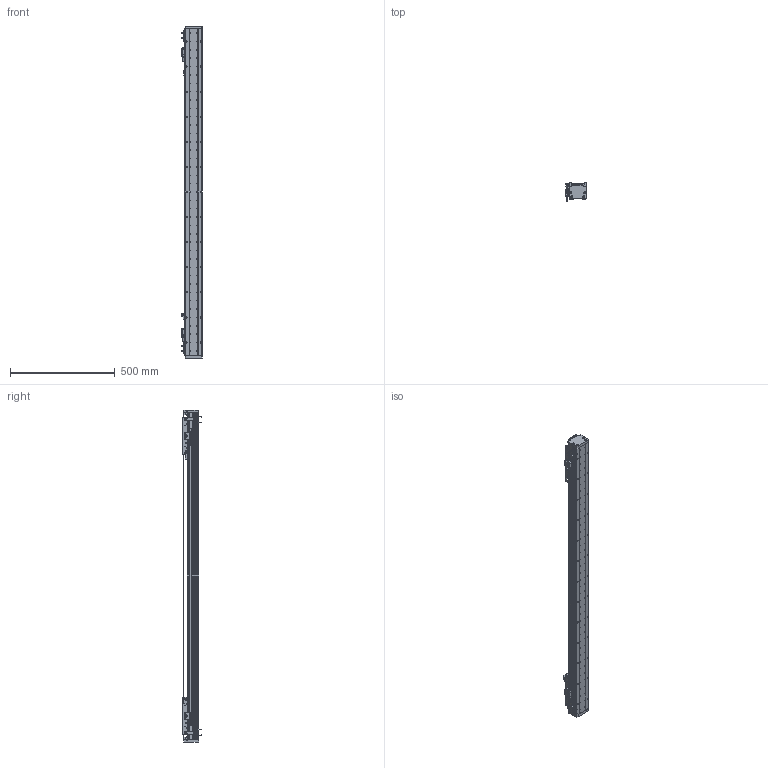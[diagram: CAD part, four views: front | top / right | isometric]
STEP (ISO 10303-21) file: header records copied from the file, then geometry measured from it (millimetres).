
FILE_DESCRIPTION (( 'STEP AP203' ), '1' );
FILE_NAME ('DA-A82-2-B2-T1140-C010-0.2 眻盄萇儂.STEP', '2025-08-13T02:33:49', ( '' ), ( '' ), 'SwSTEP 2.0', 'SolidWorks 2019', '' );
FILE_SCHEMA (( 'CONFIG_CONTROL_DESIGN' ));
Length unit declared in the file: millimetre
Products named in the file (29): AU82-M-00 珨极趙賑雄怢啣; 复件 复件 复件 DA82 钢带盖板^DA-A82-B2-T-C010-0.2-N 直线电机(默认); 复件 DA82-GYP-ZJ-00 中间光电感应片^DA-A82-B2-T-C010-0.2-N 直线电机; DA-A82-2-B2-T1140-C010-0.2 眻盄萇儂; 复件 复件 17517-0000-004-00  钢带压块^DA-A82-B2-T-C010-0.2-N 直线电机(默认); IU-AU82-L 菁釱絳寢; AU82-M-00 珨极趙賑雄怢啣-1; 葩璃 PM-L25^DA-A82-B2-T-C010-0.2-N 眻盄萇儂; 复件 DKW-GJ-XJ-00 防撞橡胶^DA-A82-B2-T-C010-0.2-N 直线电机; 复件 DA82-GDZ-ZJ-00 中间光电固定座^DA-A82-B2-T-C010-0.2-N 直线电机; AU82-M 幗紩賑怢-1; AU82-M 幗紩賑怢; 葩璃 PM-T45^DA-A82-B2-T-C010-0.2-N 眻盄萇儂; 复件 DA95-B2-GT-00 滑块钢轨^AU82-M-00 一体化滑动台板; 复件 复件 17517-0000-002-00 端板^DA-A82-B2-T-C010-0.2-N 直线电机; 复件 BKM02-W040-C1-TP-DA-3.0 直线电机动子^DA-A82-B2-T-C010-0.2-N 直线电机; 复件 纯铜油杯 6x6mm^AU82-M 滚珠滑台; 复件 DA60-DMT-DTJ-00 读数头支架^DA-A82-B2-T-C010-0.2-N 直线电机; 葩璃 DA82-B2-DP-00 結え^AU82-M 幗紩賑怢; 葩璃 BKM01-W040-TRL^DA-A82-B2-T-C010-0.2-N 眻盄萇儂; 复件 复件 17517-0000-003-00 钢带拉块^DA-A82-B2-T-C010-0.2-N 直线电机; 复件 XD-U-02  磁栅尺^DA-A82-B2-T-C010-0.2-N 直线电机; 复件 复件 DA82-XJ-00 缓冲橡胶^DA-A82-B2-T-C010-0.2-N 直线电机; 复件 DA95-GT-T-00 底座钢轨^IU-AU82-L 底座导轨; DA-A60-GYP-DMT-00 光电感应片^DA-A82-B2-T-C010-0.2-N 直线电机(默认); IU-AU82-L-00 菁釱(L1560); 葩璃 DMT-010 1米m 0.2M^DA-A82-B2-T-C010-0.2-N 眻盄萇儂; AU82-HT-M-00 賑雄怢啣; 复件 六角薄螺母 M3^DA-A82-B2-T-C010-0.2-N 直线电机
Assembly tree (61 placements, depth 4):
  DA-A82-2-B2-T1140-C010-0.2 眻盄萇儂
    IU-AU82-L 菁釱絳寢
      IU-AU82-L-00 菁釱(L1560)
      复件 DA95-GT-T-00 底座钢轨^IU-AU82-L 底座导轨  x2
    AU82-M 幗紩賑怢
      AU82-M-00 珨极趙賑雄怢啣
        AU82-HT-M-00 賑雄怢啣
        复件 DA95-B2-GT-00 滑块钢轨^AU82-M-00 一体化滑动台板  x4
      葩璃 DA82-B2-DP-00 結え^AU82-M 幗紩賑怢  x2
      复件 纯铜油杯 6x6mm^AU82-M 滚珠滑台  x2
    AU82-M 幗紩賑怢-1
      AU82-M-00 珨极趙賑雄怢啣-1
        AU82-HT-M-00 賑雄怢啣
        复件 DA95-B2-GT-00 滑块钢轨^AU82-M-00 一体化滑动台板  x4
      葩璃 DA82-B2-DP-00 結え^AU82-M 幗紩賑怢  x2
      复件 纯铜油杯 6x6mm^AU82-M 滚珠滑台  x2
    复件 BKM02-W040-C1-TP-DA-3.0 直线电机动子^DA-A82-B2-T-C010-0.2-N 直线电机  x2
    复件 DA60-DMT-DTJ-00 读数头支架^DA-A82-B2-T-C010-0.2-N 直线电机  x2
    葩璃 DMT-010 1米m 0.2M^DA-A82-B2-T-C010-0.2-N 眻盄萇儂  x2
    DA-A60-GYP-DMT-00 光电感应片^DA-A82-B2-T-C010-0.2-N 直线电机(默认)  x2
    复件 DA82-GDZ-ZJ-00 中间光电固定座^DA-A82-B2-T-C010-0.2-N 直线电机
    葩璃 PM-L25^DA-A82-B2-T-C010-0.2-N 眻盄萇儂
    复件 DA82-GYP-ZJ-00 中间光电感应片^DA-A82-B2-T-C010-0.2-N 直线电机
    复件 DKW-GJ-XJ-00 防撞橡胶^DA-A82-B2-T-C010-0.2-N 直线电机
    复件 复件 17517-0000-003-00 钢带拉块^DA-A82-B2-T-C010-0.2-N 直线电机  x2
    复件 复件 DA82-XJ-00 缓冲橡胶^DA-A82-B2-T-C010-0.2-N 直线电机  x2
    复件 复件 17517-0000-004-00  钢带压块^DA-A82-B2-T-C010-0.2-N 直线电机(默认)  x2
    复件 复件 17517-0000-002-00 端板^DA-A82-B2-T-C010-0.2-N 直线电机  x2
    复件 复件 复件 DA82 钢带盖板^DA-A82-B2-T-C010-0.2-N 直线电机(默认)
    葩璃 BKM01-W040-TRL^DA-A82-B2-T-C010-0.2-N 眻盄萇儂
    葩璃 PM-T45^DA-A82-B2-T-C010-0.2-N 眻盄萇儂  x4
    复件 XD-U-02  磁栅尺^DA-A82-B2-T-C010-0.2-N 直线电机
    复件 六角薄螺母 M3^DA-A82-B2-T-C010-0.2-N 直线电机  x8
Bounding box: 98.95 x 87.2 x 1588 mm (x, y, z)
Volume: 5047492.9 mm3; surface area: 1500837.3 mm2
Topology: 70 solids, 118 shells, 3375 faces, 8705 edges, 5406 vertices
Faces by surface type: cylinder 1539, plane 1344, cone 456, bspline 16, torus 16, sphere 4
Entity records: 69821 total; most frequent: CARTESIAN_POINT 15345, DIRECTION 10851, ORIENTED_EDGE 10192, EDGE_CURVE 5096, AXIS2_PLACEMENT_3D 4127, VERTEX_POINT 3310, EDGE_LOOP 2598, LINE 2597
